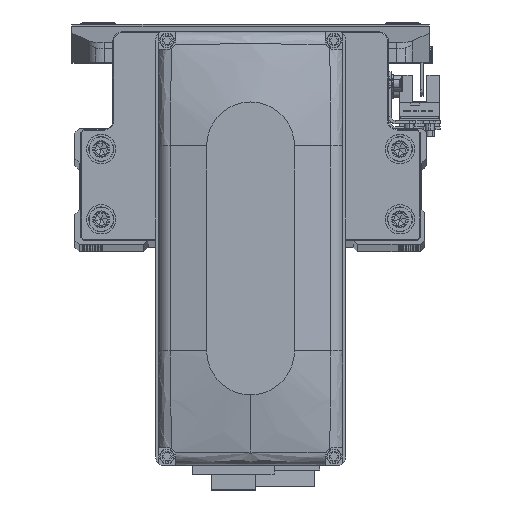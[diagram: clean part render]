
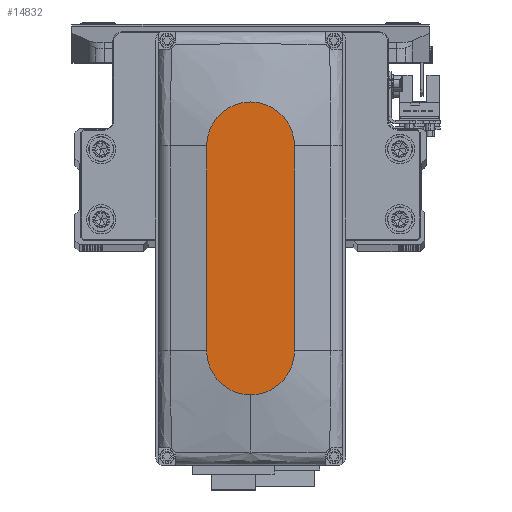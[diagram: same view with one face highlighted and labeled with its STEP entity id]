
A CAD part, top view. The second image highlights one B-rep face of the part: STEP entity #14832.
In plain terms, the highlighted planar face has unit normal (0, 0, 1).
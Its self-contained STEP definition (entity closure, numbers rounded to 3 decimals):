
#1383 = DIRECTION ( 'NONE',  ( 1., 0., 0. ) ) ;
#2921 = CARTESIAN_POINT ( 'NONE',  ( 50., 0., 35. ) ) ;
#2985 = DIRECTION ( 'NONE',  ( 1., 0., 0. ) ) ;
#3290 = ORIENTED_EDGE ( 'NONE', *, *, #41752, .T. ) ;
#3610 = CARTESIAN_POINT ( 'NONE',  ( 0., 0., 35. ) ) ;
#4301 = AXIS2_PLACEMENT_3D ( 'NONE', #3610, #19101, #34618 ) ;
#5979 = VECTOR ( 'NONE', #23824, 1000. ) ;
#8321 = CARTESIAN_POINT ( 'NONE',  ( -35., 15., 35. ) ) ;
#8378 = CARTESIAN_POINT ( 'NONE',  ( -35., 15., 35. ) ) ;
#11865 = DIRECTION ( 'NONE',  ( 0., 0., 1. ) ) ;
#11928 = EDGE_LOOP ( 'NONE', ( #19991, #3290, #44056, #40056, #32992 ) ) ;
#12099 = DIRECTION ( 'NONE',  ( 1., 0., 0. ) ) ;
#12401 = EDGE_CURVE ( 'NONE', #14650, #28009, #43136, .T. ) ;
#13966 = CIRCLE ( 'NONE', #42399, 15. ) ;
#14039 = CARTESIAN_POINT ( 'NONE',  ( 35., 15., 35. ) ) ;
#14650 = VERTEX_POINT ( 'NONE', #14039 ) ;
#14832 = ADVANCED_FACE ( 'NONE', ( #22943 ), #38450, .T. ) ;
#19101 = DIRECTION ( 'NONE',  ( 0., 0., 1. ) ) ;
#19991 = ORIENTED_EDGE ( 'NONE', *, *, #12401, .T. ) ;
#20143 = VERTEX_POINT ( 'NONE', #28514 ) ;
#20706 = CARTESIAN_POINT ( 'NONE',  ( 35., 0., 35. ) ) ;
#20805 = VECTOR ( 'NONE', #12099, 1000. ) ;
#21134 = AXIS2_PLACEMENT_3D ( 'NONE', #46675, #11865, #27371 ) ;
#22304 = CARTESIAN_POINT ( 'NONE',  ( -35., 0., 35. ) ) ;
#22564 = AXIS2_PLACEMENT_3D ( 'NONE', #20706, #36218, #1383 ) ;
#22943 = FACE_OUTER_BOUND ( 'NONE', #11928, .T. ) ;
#23824 = DIRECTION ( 'NONE',  ( -1., 0., 0. ) ) ;
#27371 = DIRECTION ( 'NONE',  ( 1., 0., 0. ) ) ;
#28009 = VERTEX_POINT ( 'NONE', #8378 ) ;
#28468 = CARTESIAN_POINT ( 'NONE',  ( -35., -15., 35. ) ) ;
#28514 = CARTESIAN_POINT ( 'NONE',  ( 35., -15., 35. ) ) ;
#31410 = LINE ( 'NONE', #46913, #20805 ) ;
#32992 = ORIENTED_EDGE ( 'NONE', *, *, #49848, .T. ) ;
#34618 = DIRECTION ( 'NONE',  ( 1., 0., 0. ) ) ;
#36218 = DIRECTION ( 'NONE',  ( 0., 0., 1. ) ) ;
#36466 = EDGE_CURVE ( 'NONE', #20143, #40895, #43053, .T. ) ;
#37829 = DIRECTION ( 'NONE',  ( 0., 0., 1. ) ) ;
#38450 = PLANE ( 'NONE',  #4301 ) ;
#40056 = ORIENTED_EDGE ( 'NONE', *, *, #36466, .T. ) ;
#40895 = VERTEX_POINT ( 'NONE', #2921 ) ;
#41752 = EDGE_CURVE ( 'NONE', #28009, #47739, #13966, .T. ) ;
#42399 = AXIS2_PLACEMENT_3D ( 'NONE', #22304, #37829, #2985 ) ;
#43053 = CIRCLE ( 'NONE', #21134, 15. ) ;
#43136 = LINE ( 'NONE', #8321, #5979 ) ;
#44056 = ORIENTED_EDGE ( 'NONE', *, *, #48483, .T. ) ;
#44457 = CIRCLE ( 'NONE', #22564, 15. ) ;
#46675 = CARTESIAN_POINT ( 'NONE',  ( 35., 0., 35. ) ) ;
#46913 = CARTESIAN_POINT ( 'NONE',  ( -35., -15., 35. ) ) ;
#47739 = VERTEX_POINT ( 'NONE', #28468 ) ;
#48483 = EDGE_CURVE ( 'NONE', #47739, #20143, #31410, .T. ) ;
#49848 = EDGE_CURVE ( 'NONE', #40895, #14650, #44457, .T. ) ;
